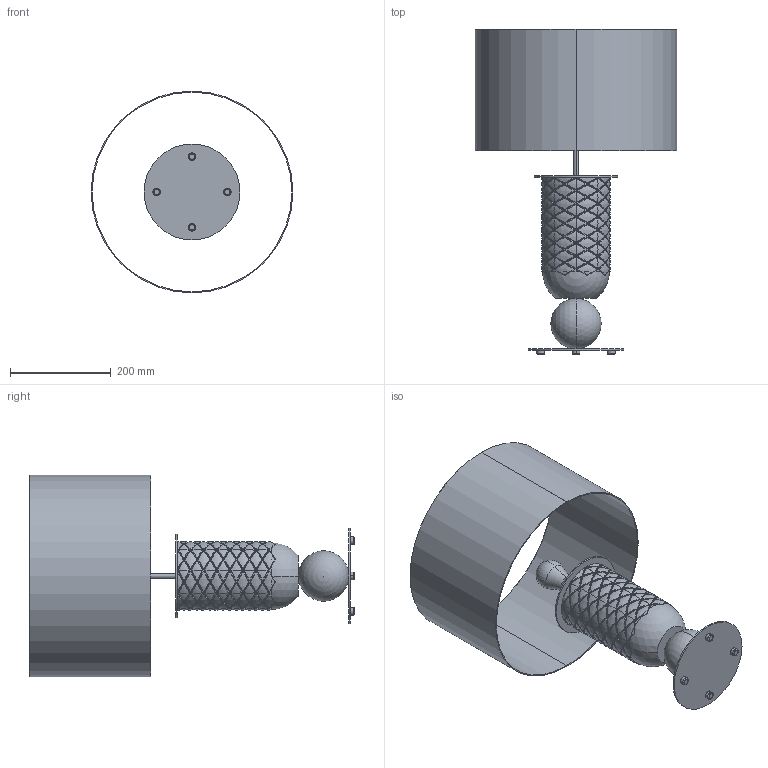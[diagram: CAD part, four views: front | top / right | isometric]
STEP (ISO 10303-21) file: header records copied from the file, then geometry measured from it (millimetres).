
FILE_DESCRIPTION (( 'STEP AP214' ), '1' );
FILE_NAME('CAL010800','',(''),(''),'','','');
FILE_SCHEMA (( 'AUTOMOTIVE_DESIGN' ));
Length unit declared in the file: millimetre
Products named in the file (1): CAL010800_CAL010800
Bounding box: 400 x 644 x 400 mm (x, y, z)
Volume: 4649982.3 mm3; surface area: 1032864.9 mm2
Topology: 146 solids, 146 shells, 2638 faces, 7175 edges, 4301 vertices
Faces by surface type: bspline 1314, cylinder 560, plane 550, torus 210, sphere 4
Entity records: 162156 total; most frequent: CARTESIAN_POINT 84231, ORIENTED_EDGE 13288, EDGE_CURVE 6644, B_SPLINE_CURVE_WITH_KNOTS 4752, DIRECTION 4695, VERTEX_POINT 4298, UNCERTAINTY_MEASURE_WITH_UNIT 2786, FILL_AREA_STYLE_COLOUR 2785
